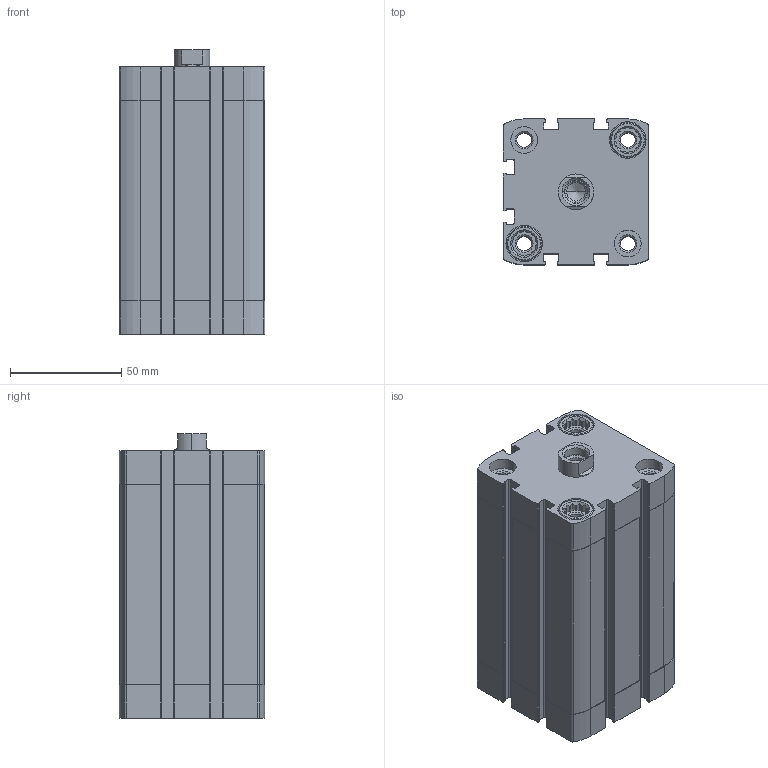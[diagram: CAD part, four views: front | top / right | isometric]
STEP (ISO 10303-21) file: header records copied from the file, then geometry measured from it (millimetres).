
FILE_DESCRIPTION (( 'STEP AP203' ), '1' );
FILE_NAME ('CCN50-75F.STEP', '2017-04-03T15:55:07', ( '' ), ( '' ), 'SwSTEP 2.0', 'SolidWorks 2016', '' );
FILE_SCHEMA (( 'CONFIG_CONTROL_DESIGN' ));
Length unit declared in the file: millimetre
Products named in the file (3): CCN-75---(Z); CCN-75_(KS); CCN50-75F
Assembly tree (2 placements, depth 2):
  CCN50-75F
    CCN-75---(Z)
    CCN-75_(KS)
Bounding box: 65.5 x 65.5 x 127.7 mm (x, y, z)
Volume: 327565.6 mm3; surface area: 90763.1 mm2
Topology: 2 solids, 2 shells, 471 faces, 1276 edges, 839 vertices
Faces by surface type: plane 219, cylinder 210, cone 42
Entity records: 15329 total; most frequent: CARTESIAN_POINT 2883, DIRECTION 2600, ORIENTED_EDGE 2548, EDGE_CURVE 1274, AXIS2_PLACEMENT_3D 948, VERTEX_POINT 839, LINE 704, VECTOR 704
